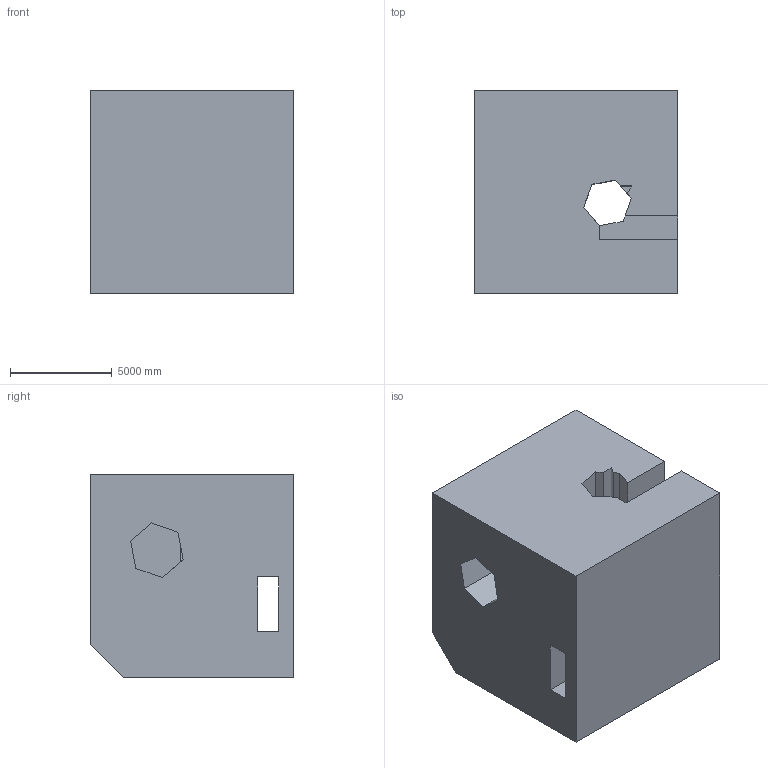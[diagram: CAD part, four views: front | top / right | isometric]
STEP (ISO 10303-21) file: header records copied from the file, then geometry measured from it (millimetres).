
FILE_DESCRIPTION (( 'STEP AP203' ), '1' );
FILE_NAME ('541.STEP', '2022-07-29T11:43:55', ( 'user' ), ( '' ), 'SwSTEP 2.0', 'SolidWorks 2021', '' );
FILE_SCHEMA (( 'CONFIG_CONTROL_DESIGN' ));
Length unit declared in the file: centimetre
Products named in the file (1): 541
Bounding box: 10000 x 10000 x 10000 mm (x, y, z)
Volume: 880661067286.8 mm3; surface area: 787627941 mm2
Topology: 1 solids, 1 shells, 31 faces, 90 edges, 60 vertices
Faces by surface type: plane 31
Entity records: 1093 total; most frequent: CARTESIAN_POINT 182, ORIENTED_EDGE 180, DIRECTION 154, LINE 90, VECTOR 90, EDGE_CURVE 90, VERTEX_POINT 60, EDGE_LOOP 36
